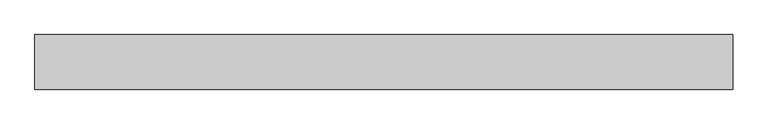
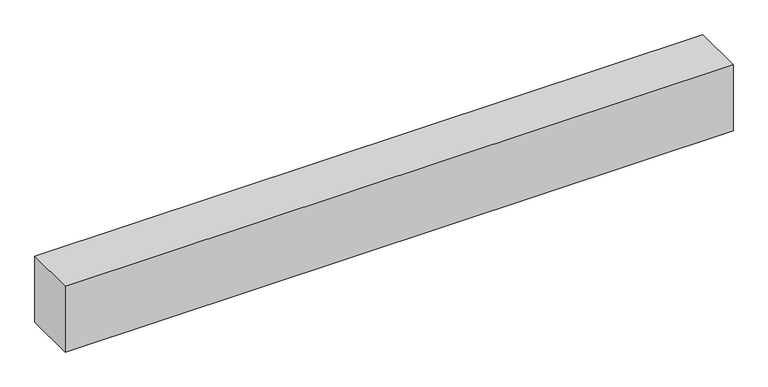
"""IFC4 building model written with IfcOpenShell, lengths in millimetres: beam geometry, NS R30 180x240x2300 : NS R30 180x240x2300."""

import ifcopenshell
import ifcopenshell.guid

model = None  # the IFC model being written
_history = None  # IfcOwnerHistory: only IFC2X3 demands one
_inside = {}  # id of a spatial element -> (the spatial element, [elements in it])
_under = {}  # id of a project, library or spatial element -> (it, [spatial elements below it])
_declared = {}  # id of a project -> (the project, [libraries it declares])
_typed = {}  # id of a type object -> (the type object, [elements of that type])
_made_of = {}  # id of a material, layer set ... -> (it, [elements and type objects made of it])


def new_model(schema):
    """Start an empty IFC model of exactly this schema.

    Asked for "IFC4X3", IfcOpenShell would pick the latest addendum, in which some entities
    have other attributes; the version numbers below select the first issue.
    IFC2X3 requires an IfcOwnerHistory on every rooted entity: one is made here for all.
    """
    global model, _history
    if schema == "IFC4X3":
        model = ifcopenshell.file(schema_version=(4, 3, 0, 0))
    else:
        model = ifcopenshell.file(schema=schema)
    _inside.clear()
    _under.clear()
    _declared.clear()
    _typed.clear()
    _made_of.clear()
    _history = None
    if model.schema == "IFC2X3":
        org = make("IfcOrganization", Name="unknown")
        user = make(
            "IfcPersonAndOrganization",
            ThePerson=make("IfcPerson", FamilyName="unknown"),
            TheOrganization=org,
        )
        app = make(
            "IfcApplication",
            ApplicationDeveloper=org,
            Version="unknown",
            ApplicationFullName="unknown",
            ApplicationIdentifier="unknown",
        )
        _history = make(
            "IfcOwnerHistory",
            OwningUser=user,
            OwningApplication=app,
            ChangeAction="ADDED",
            CreationDate=0,
        )
    return model


def make(cls, **values):
    """One entity of the class cls with the attributes given. An attribute that is None is left unset."""
    return model.create_entity(
        cls, **{name: value for name, value in values.items() if value is not None}
    )


def rooted(cls, **values):
    """An entity with a GlobalId (a new one), such as an element, a storey or a relation."""
    return make(cls, GlobalId=ifcopenshell.guid.new(), OwnerHistory=_history, **values)


def si_unit(unit_type, name, prefix=None):
    """IfcSIUnit, for example si_unit("LENGTHUNIT", "METRE", prefix="MILLI")."""
    return make("IfcSIUnit", UnitType=unit_type, Prefix=prefix, Name=name)


def assignment(units):
    """IfcUnitAssignment: the units of a project."""
    return None if units is None else make("IfcUnitAssignment", Units=units)


def point(xyz):
    """IfcCartesianPoint."""
    return None if xyz is None else make("IfcCartesianPoint", Coordinates=xyz)


def direction(xyz):
    """IfcDirection."""
    return None if xyz is None else make("IfcDirection", DirectionRatios=xyz)


def frame(location, z_axis=None, x_axis=None):
    """IfcAxis2Placement3D, a coordinate frame: its origin and axes. An axis left out is left unset."""
    return make(
        "IfcAxis2Placement3D",
        Location=point(location),
        Axis=direction(z_axis),
        RefDirection=direction(x_axis),
    )


def origin():
    """The frame at (0, 0, 0) with its axes left unset."""
    return frame((0.0, 0.0, 0.0))


def origin_with_axes():
    """The frame at (0, 0, 0) with the z axis (0, 0, 1) and the x axis (1, 0, 0) written out."""
    return frame((0.0, 0.0, 0.0), z_axis=(0.0, 0.0, 1.0), x_axis=(1.0, 0.0, 0.0))


def place(relative_to, where):
    """IfcLocalPlacement: puts the frame where relative to a parent placement (None: the world)."""
    return make(
        "IfcLocalPlacement", PlacementRelTo=relative_to, RelativePlacement=where
    )


def context(
    kind, dimensions, precision=None, world=None, true_north=None, identifier=None
):
    """IfcGeometricRepresentationContext, for example the 3D "Model" context."""
    return make(
        "IfcGeometricRepresentationContext",
        ContextIdentifier=identifier,
        ContextType=kind,
        CoordinateSpaceDimension=dimensions,
        Precision=precision,
        WorldCoordinateSystem=world,
        TrueNorth=true_north,
    )


def project(units=None, contexts=None):
    """IfcProject with its units and contexts."""
    return rooted(
        "IfcProject",
        Name="project",
        RepresentationContexts=contexts,
        UnitsInContext=assignment(units),
    )


def spatial(cls, under=None, at=None, **own):
    """A site, building, storey or space (cls), placed at a placement, below another one or the project."""
    s = rooted(cls, ObjectPlacement=at, **own)
    if under is not None:
        _under.setdefault(under.id(), (under, []))[1].append(s)
    return s


def polyline(points):
    """IfcPolyline through the points."""
    return make("IfcPolyline", Points=[point(p) for p in points])


def outline(outer, holes=None, kind="AREA"):
    """IfcArbitraryClosedProfileDef: a profile drawn as a closed curve; with holes, ...WithVoids."""
    if holes is None:
        return make("IfcArbitraryClosedProfileDef", ProfileType=kind, OuterCurve=outer)
    return make(
        "IfcArbitraryProfileDefWithVoids",
        ProfileType=kind,
        OuterCurve=outer,
        InnerCurves=holes,
    )


def extrude(swept, where, along, depth):
    """IfcExtrudedAreaSolid: the profile swept, set in the frame where, extruded along a direction by depth."""
    return make(
        "IfcExtrudedAreaSolid",
        SweptArea=swept,
        Position=where,
        ExtrudedDirection=direction(along),
        Depth=depth,
    )


def shape(context_of_items, identifier, shape_type, items):
    """IfcShapeRepresentation: the items that make up one representation, for example the "Body"."""
    return make(
        "IfcShapeRepresentation",
        ContextOfItems=context_of_items,
        RepresentationIdentifier=identifier,
        RepresentationType=shape_type,
        Items=items,
    )


def source(mapping_origin, context_of_items, identifier, shape_type, items):
    """IfcRepresentationMap: a shape defined once, which mapped items show again and again."""
    return make(
        "IfcRepresentationMap",
        MappingOrigin=mapping_origin,
        MappedRepresentation=shape(context_of_items, identifier, shape_type, items),
    )


def transform(
    local_origin,
    x_axis=None,
    y_axis=None,
    z_axis=None,
    scale=None,
    scale2=None,
    scale3=None,
    uniform=True,
):
    """IfcCartesianTransformationOperator3D, or its non-uniform kind. x_axis, y_axis, z_axis: its Axis1, 2, 3."""
    if uniform:
        return make(
            "IfcCartesianTransformationOperator3D",
            Axis1=direction(x_axis),
            Axis2=direction(y_axis),
            LocalOrigin=point(local_origin),
            Scale=scale,
            Axis3=direction(z_axis),
        )
    return make(
        "IfcCartesianTransformationOperator3DnonUniform",
        Axis1=direction(x_axis),
        Axis2=direction(y_axis),
        LocalOrigin=point(local_origin),
        Scale=scale,
        Axis3=direction(z_axis),
        Scale2=scale2,
        Scale3=scale3,
    )


def mapped(mapping_source, mapping_target):
    """IfcMappedItem: shows the shape of a source again, moved by a transform."""
    return make(
        "IfcMappedItem", MappingSource=mapping_source, MappingTarget=mapping_target
    )


def made_of(thing, what):
    """Note that an element or type object is made of a material, layer set ...; save() writes the relation."""
    if what is not None:
        _made_of.setdefault(what.id(), (what, []))[1].append(thing)
    return thing


def element(
    cls,
    number,
    at=None,
    inside=None,
    cuts=None,
    type_object=None,
    material=None,
    context=None,
    identifier="Body",
    shape_type=None,
    held_by="IfcProductDefinitionShape",
    body=None,
    shapes=None,
    **own,
):
    """One element of the class cls, such as IfcWall. Its Tag is "e" and its number.

    at: its placement. inside: the storey or other place that contains it. cuts: it is an
    opening in that element (IfcRelVoidsElement). A single representation is given by context,
    identifier, shape_type and body (its items); several are given by shapes. held_by: the class
    of the entity that holds the representations. save() writes the other relations.
    """
    e = rooted(cls, Tag="e%d" % number, ObjectPlacement=at, **own)
    if body is not None:
        shapes = [shape(context, identifier, shape_type, body)]
    if shapes is not None:
        e.Representation = make(held_by, Representations=shapes)
    if inside is not None:
        _inside.setdefault(inside.id(), (inside, []))[1].append(e)
    if cuts is not None:
        rooted(
            "IfcRelVoidsElement", RelatingBuildingElement=cuts, RelatedOpeningElement=e
        )
    if type_object is not None:
        _typed.setdefault(type_object.id(), (type_object, []))[1].append(e)
    return made_of(e, material)


def aggregate(whole, parts):
    """IfcRelAggregates: a whole, such as a stair, and the parts it consists of."""
    return rooted("IfcRelAggregates", RelatingObject=whole, RelatedObjects=parts)


def save(model, path):
    """Write the relations noted so far, then the file.

    IfcRelAggregates (storeys below a building ...), IfcRelContainedInSpatialStructure (elements
    in a storey), IfcRelDefinesByType, IfcRelAssociatesMaterial and IfcRelDeclares: one each for
    every whole, place, type object, material and project.
    """
    for whole, parts in _under.values():
        aggregate(whole, parts)
    for where, things in _inside.values():
        rooted(
            "IfcRelContainedInSpatialStructure",
            RelatedElements=things,
            RelatingStructure=where,
        )
    for kind, things in _typed.values():
        rooted("IfcRelDefinesByType", RelatedObjects=things, RelatingType=kind)
    for what, things in _made_of.values():
        rooted("IfcRelAssociatesMaterial", RelatedObjects=things, RelatingMaterial=what)
    for by, libraries in _declared.values():
        rooted("IfcRelDeclares", RelatingContext=by, RelatedDefinitions=libraries)
    model.write(path)


def beam_6d3bc1db(model_context):
    return source(origin(), model_context, "Body", "SweptSolid", [
        extrude(outline(polyline([(-1150.0, -90.0), (-1150.0, 90.0), (1150.0, 90.0), (1150.0, -90.0), (-1150.0, -90.0)])), origin_with_axes(), (0.0, 0.0, 1.0), 240.0),
    ])


if __name__ == "__main__":
    model = new_model("IFC4")
    model_context = context("Model", 3, world=origin())
    ifc_project = project(units=[si_unit("LENGTHUNIT", "METRE", prefix="MILLI")], contexts=[model_context])
    site = spatial("IfcSite", under=ifc_project)
    building = spatial("IfcBuilding", under=site)
    placement = place(None, origin())
    beam_shape = beam_6d3bc1db(model_context)
    element("IfcBeam", 1, ObjectType="NS R30 180x240x2300 : NS R30 180x240x2300", at=placement, inside=building, context=model_context, shape_type="MappedRepresentation", body=[
        mapped(beam_shape, transform((0.0, 0.0, 0.0), x_axis=(1.0, 0.0, 0.0), y_axis=(0.0, 1.0, 0.0), z_axis=(0.0, 0.0, 1.0))),
    ])
    save(model, "model.ifc")
